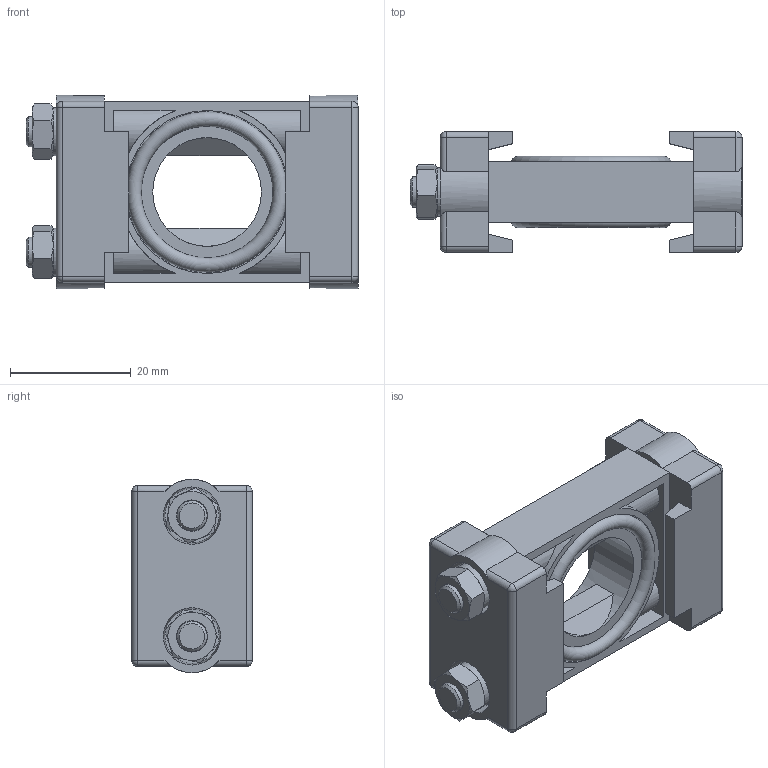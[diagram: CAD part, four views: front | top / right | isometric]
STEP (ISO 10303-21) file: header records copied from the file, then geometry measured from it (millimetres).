
FILE_DESCRIPTION( ( 'Unknown' ), '1' );
FILE_NAME( 'D:/STEP/BS-MACP403-1.stp', 'Unknown', ( 'Unknown' ), ( 'Unknown' ), 'PSStep 15.0.49', 'Unknown', ' ' );
FILE_SCHEMA( ( 'AUTOMOTIVE_DESIGN { 1 0 10303 214 1 1 1 1 }' ) );
Length unit declared in the file: millimetre
Products named in the file (3): 1; 2; B00413
Bounding box: 55 x 20 x 32 mm (x, y, z)
Surface area: 13346.5 mm2 (no closed solid volume)
Topology: 0 solids, 220 shells, 220 faces, 982 edges, 937 vertices
Faces by surface type: plane 111, cylinder 54, cone 41, sphere 8, torus 6
Full cylindrical faces by diameter (mm): 5 x4, 5.5 x2, 8 x2, 8.5 x2, 21.8 x2, 27 x2
Entity records: 12510 total; most frequent: CARTESIAN_POINT 3486, DIRECTION 1526, VERTEX_POINT 925, ORIENTED_EDGE 922, EDGE_CURVE 922, AXIS2_PLACEMENT_3D 521, LINE 484, VECTOR 484
